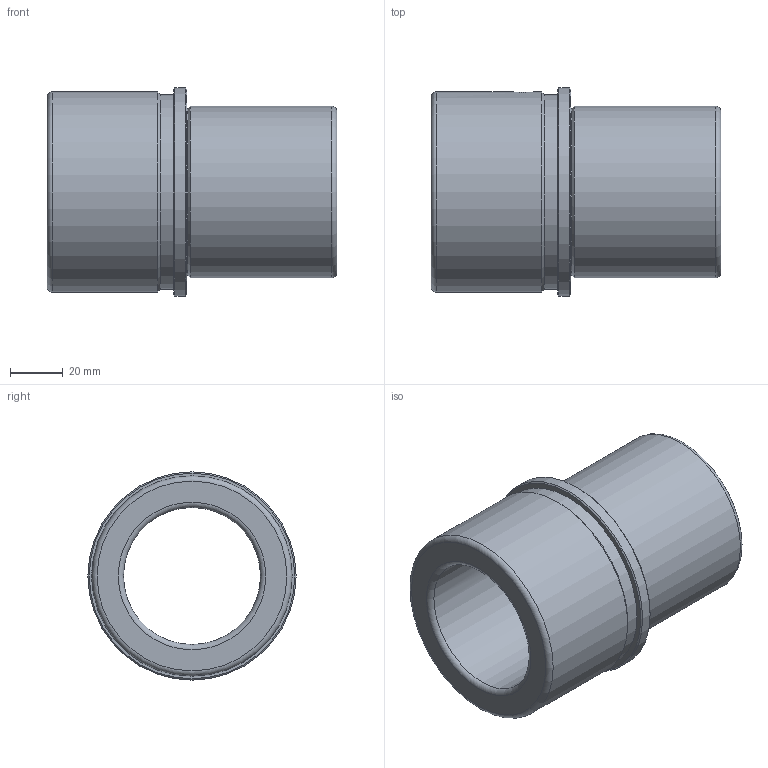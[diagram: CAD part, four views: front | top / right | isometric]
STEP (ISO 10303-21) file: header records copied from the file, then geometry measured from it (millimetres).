
FILE_DESCRIPTION( ( 'STEP AP214' ), '1' );
FILE_NAME( 'p:/temp/worker_22/temp/exporttempdir_4224_34_bSoq9/format_0/WZ - 4051 52 x 110.stp', '2020-12-04T19:43:12', ( 'License CC BY-ND 4.0' ), ( 'CADENAS' ), ' ', 'PARTsolutions', ' ' );
FILE_SCHEMA( ( 'AUTOMOTIVE_DESIGN { 1 0 10303 214 1 1 1 1 }' ) );
Length unit declared in the file: millimetre
Products named in the file (1): _WZ - 4051 52 x 110
Bounding box: 110 x 79 x 79 mm (x, y, z)
Volume: 194537 mm3; surface area: 48129.1 mm2
Topology: 1 solids, 1 shells, 21 faces, 38 edges, 22 vertices
Faces by surface type: cylinder 7, cone 5, plane 5, torus 4
Full cylindrical faces by diameter (mm): 8.376 x1, 52 x1, 63 x1, 65 x1, 74 x1, 76 x1, 79 x1
Entity records: 750 total; most frequent: CARTESIAN_POINT 196, DIRECTION 84, EDGE_LOOP 44, ORIENTED_EDGE 44, AXIS2_PLACEMENT_3D 42, FACE_OUTER_BOUND 32, EDGE_CURVE 22, VERTEX_POINT 22
